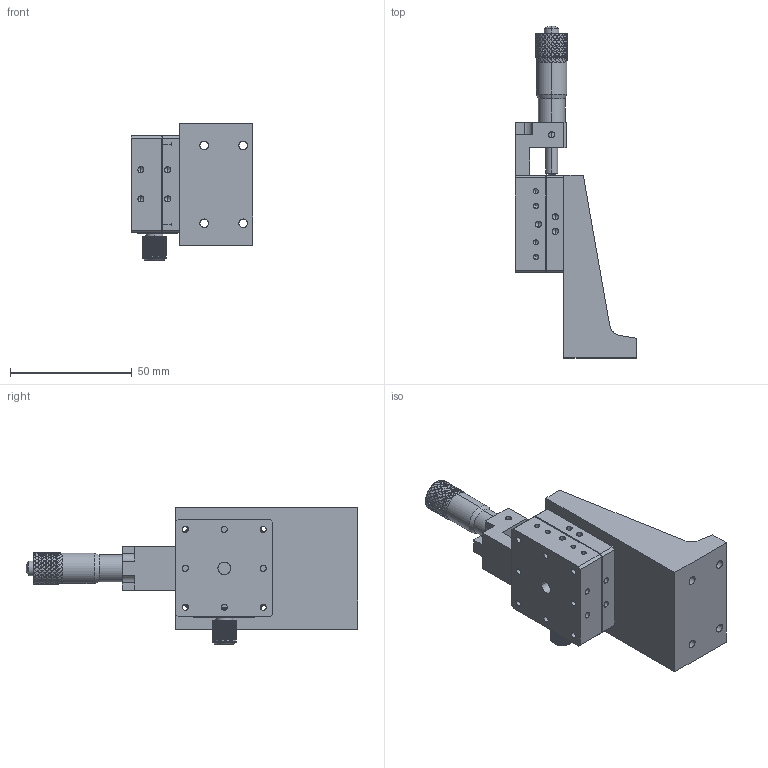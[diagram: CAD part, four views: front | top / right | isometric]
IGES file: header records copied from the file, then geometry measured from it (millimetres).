
Start section: SolidWorks IGES file using analytic representation for surfaces
Bounding box: 50 x 136.47 x 56.3 mm (x, y, z)
Surface area: 32214.1 mm2 (no closed solid volume)
Topology: 0 solids, 0 shells, 1470 faces, 12293 edges, 12252 vertices
Faces by surface type: bspline 827, revolution 643
